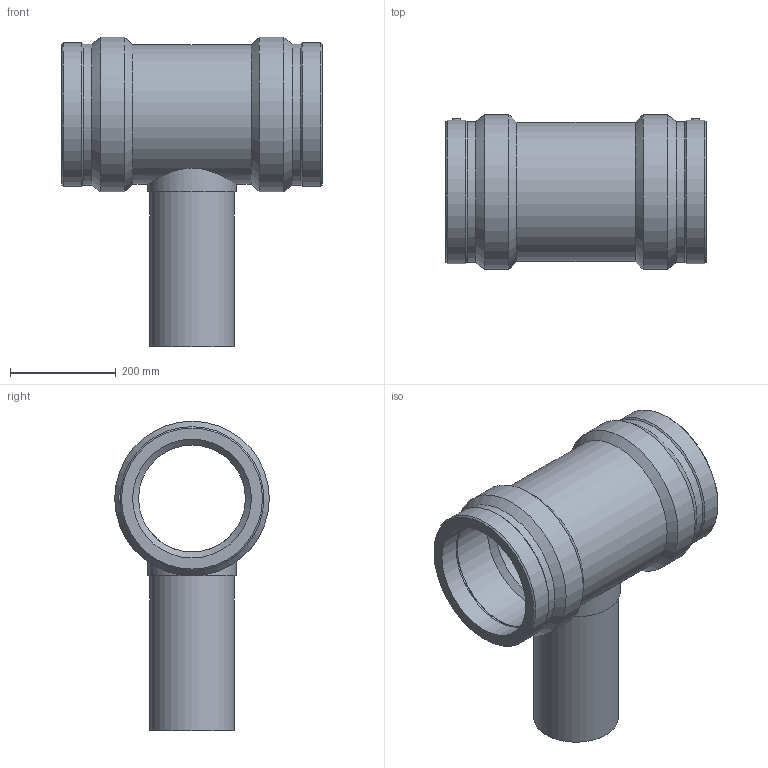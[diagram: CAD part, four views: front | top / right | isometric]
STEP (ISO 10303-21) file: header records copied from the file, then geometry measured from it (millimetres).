
FILE_DESCRIPTION(/* description */ ('PLASSON REDUCING TEE 225x160x225'),/* implementation_level */ '2;1');
FILE_NAME(/* name */ 'C:\Dropbox\KIMPROJECTS-Inventor 2019\99-16-3568-Processing\ElectroFusion Fittings\491404\491404225160.ipt.stp',/* time_stamp */ '2020-06-21T10:42:36+03:00',/* author */ ('KIM'),/* organization */ (''),/* preprocessor_version */ 'ST-DEVELOPER v17.2',/* originating_system */ 'Autodesk Inventor 2019',/* authorisation */ '');
FILE_SCHEMA (('AUTOMOTIVE_DESIGN { 1 0 10303 214 3 1 1 }'));
Length unit declared in the file: millimetre
Products named in the file (1): 491404225160
Bounding box: 494 x 293 x 586.5 mm (x, y, z)
Volume: 13030817.4 mm3; surface area: 1094237.1 mm2
Topology: 1 solids, 1 shells, 45 faces, 112 edges, 79 vertices
Faces by surface type: cylinder 19, cone 14, plane 12
Full cylindrical faces by diameter (mm): 4 x2, 10 x2, 128 x1, 160 x1, 168 x1, 202.5 x1, 225 x4, 263.7 x1, 267.04 x2, 272.49 x2, 293 x2
Entity records: 1634 total; most frequent: CARTESIAN_POINT 437, DIRECTION 267, ORIENTED_EDGE 224, AXIS2_PLACEMENT_3D 117, EDGE_CURVE 112, VERTEX_POINT 79, CIRCLE 71, EDGE_LOOP 59
